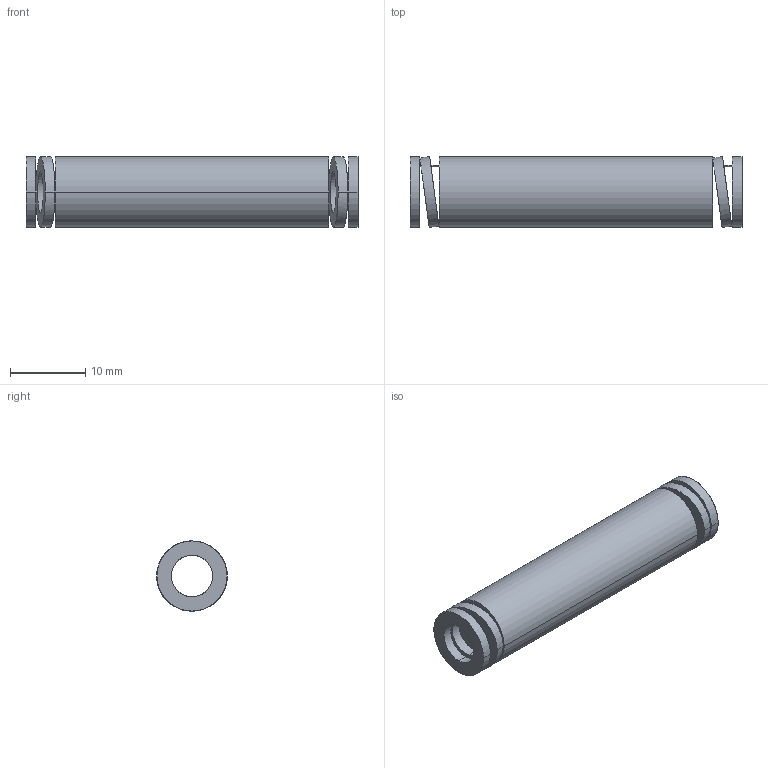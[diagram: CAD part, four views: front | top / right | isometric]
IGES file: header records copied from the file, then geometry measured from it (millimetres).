
Start section: START RECORD GO HERE.
Global section: file name: 392-B10-044.igs; native system: DASSAULT SYSTEMES CATIA V5 R20 - www.3ds.com; preprocessor: CATIA Version 5 Release 20 ; author: Utente; organization: NB04-ASUS; date: 20210812.150148; units: millimetre
Bounding box: 44 x 9.39 x 9.3 mm (x, y, z)
Surface area: 2368.7 mm2 (no closed solid volume)
Topology: 0 solids, 0 shells, 38 faces, 184 edges, 184 vertices
Faces by surface type: revolution 28, plane 10
